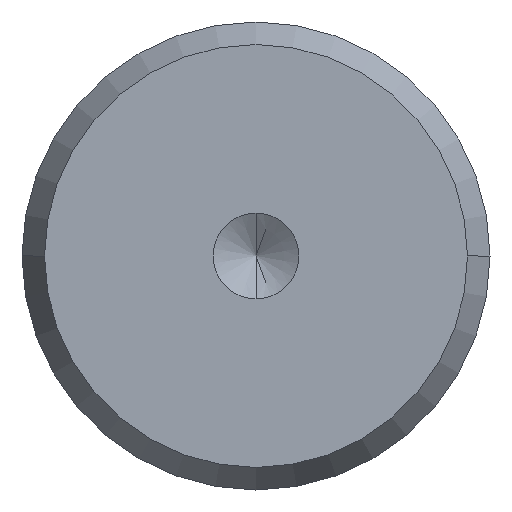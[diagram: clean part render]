
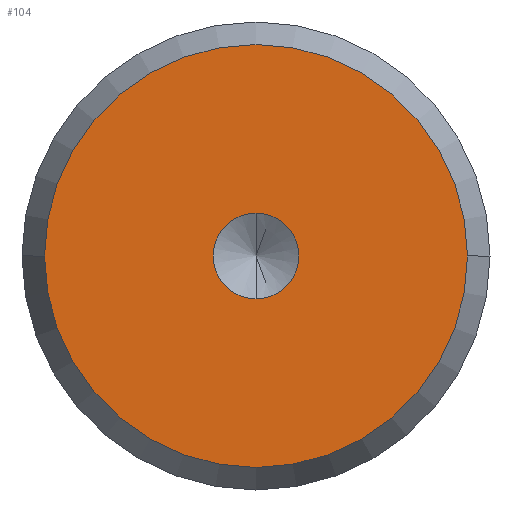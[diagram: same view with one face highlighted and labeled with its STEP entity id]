
A CAD part, front view. The second image highlights one B-rep face of the part: STEP entity #104.
In plain terms, the highlighted planar face has unit normal (0, -1, 0) as drawn and (0, 1, 0) by its records, which use the part's own axes.
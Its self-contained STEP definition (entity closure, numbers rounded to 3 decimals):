
#3 = PLANE ( 'NONE',  #129 ) ;
#13 = DIRECTION ( 'NONE',  ( 0., 1., 0. ) ) ;
#51 = DIRECTION ( 'NONE',  ( 0., 1., 0. ) ) ;
#100 = ORIENTED_EDGE ( 'NONE', *, *, #534, .T. ) ;
#104 = ADVANCED_FACE ( 'NONE', ( #276, #430 ), #3, .T. ) ;
#129 = AXIS2_PLACEMENT_3D ( 'NONE', #482, #13, #589 ) ;
#158 = DIRECTION ( 'NONE',  ( -1., 0., 0. ) ) ;
#165 = DIRECTION ( 'NONE',  ( 0., 0., 1. ) ) ;
#170 = ORIENTED_EDGE ( 'NONE', *, *, #645, .T. ) ;
#181 = ORIENTED_EDGE ( 'NONE', *, *, #613, .F. ) ;
#189 = DIRECTION ( 'NONE',  ( 0., 1., 0. ) ) ;
#193 = CARTESIAN_POINT ( 'NONE',  ( -8.134, 16.964, 0. ) ) ;
#208 = EDGE_CURVE ( 'NONE', #420, #386, #639, .T. ) ;
#258 = CIRCLE ( 'NONE', #663, 8.134 ) ;
#262 = EDGE_LOOP ( 'NONE', ( #100, #170 ) ) ;
#263 = CARTESIAN_POINT ( 'NONE',  ( 0., 16.964, 0. ) ) ;
#276 = FACE_BOUND ( 'NONE', #280, .T. ) ;
#280 = EDGE_LOOP ( 'NONE', ( #181, #413 ) ) ;
#320 = VERTEX_POINT ( 'NONE', #193 ) ;
#331 = CARTESIAN_POINT ( 'NONE',  ( 0., 16.964, 0. ) ) ;
#386 = VERTEX_POINT ( 'NONE', #529 ) ;
#408 = CARTESIAN_POINT ( 'NONE',  ( 8.134, 16.964, 0. ) ) ;
#412 = AXIS2_PLACEMENT_3D ( 'NONE', #644, #432, #648 ) ;
#413 = ORIENTED_EDGE ( 'NONE', *, *, #208, .F. ) ;
#420 = VERTEX_POINT ( 'NONE', #573 ) ;
#430 = FACE_OUTER_BOUND ( 'NONE', #262, .T. ) ;
#432 = DIRECTION ( 'NONE',  ( 0., 1., 0. ) ) ;
#463 = AXIS2_PLACEMENT_3D ( 'NONE', #263, #478, #158 ) ;
#478 = DIRECTION ( 'NONE',  ( 0., 1., 0. ) ) ;
#482 = CARTESIAN_POINT ( 'NONE',  ( 0., 16.964, 0. ) ) ;
#486 = VERTEX_POINT ( 'NONE', #408 ) ;
#504 = DIRECTION ( 'NONE',  ( -1., 0., 0. ) ) ;
#519 = CIRCLE ( 'NONE', #463, 8.134 ) ;
#529 = CARTESIAN_POINT ( 'NONE',  ( 0., 16.964, 1.65 ) ) ;
#534 = EDGE_CURVE ( 'NONE', #486, #320, #519, .T. ) ;
#535 = CARTESIAN_POINT ( 'NONE',  ( 0., 16.964, 0. ) ) ;
#573 = CARTESIAN_POINT ( 'NONE',  ( 0., 16.964, -1.65 ) ) ;
#589 = DIRECTION ( 'NONE',  ( -1., 0., 0. ) ) ;
#613 = EDGE_CURVE ( 'NONE', #386, #420, #651, .T. ) ;
#639 = CIRCLE ( 'NONE', #686, 1.65 ) ;
#644 = CARTESIAN_POINT ( 'NONE',  ( 0., 16.964, 0. ) ) ;
#645 = EDGE_CURVE ( 'NONE', #320, #486, #258, .T. ) ;
#648 = DIRECTION ( 'NONE',  ( 0., 0., 1. ) ) ;
#651 = CIRCLE ( 'NONE', #412, 1.65 ) ;
#663 = AXIS2_PLACEMENT_3D ( 'NONE', #331, #189, #504 ) ;
#686 = AXIS2_PLACEMENT_3D ( 'NONE', #535, #51, #165 ) ;
